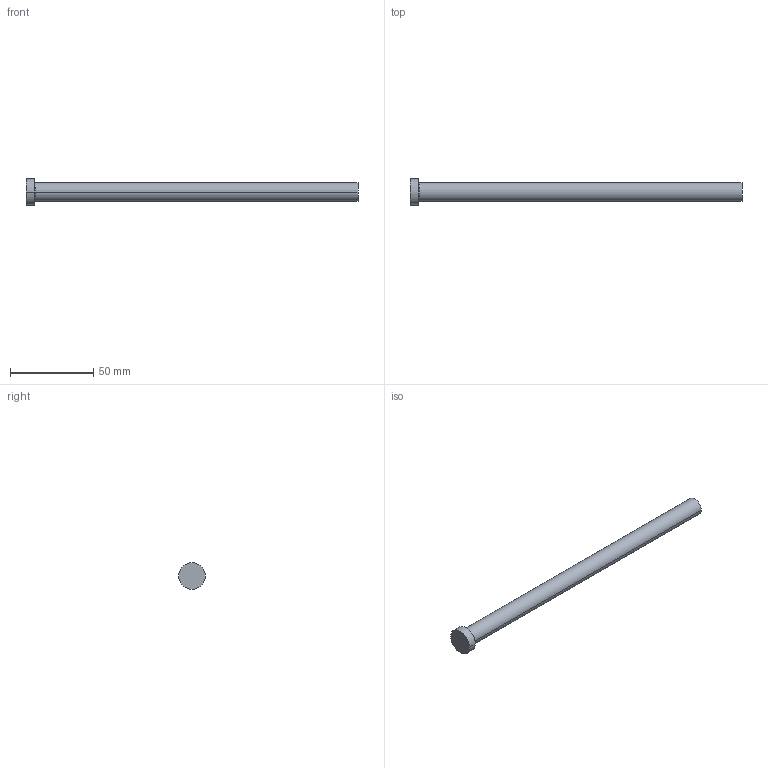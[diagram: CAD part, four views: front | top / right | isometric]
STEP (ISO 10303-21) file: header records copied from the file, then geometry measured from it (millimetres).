
FILE_DESCRIPTION (( 'STEP AP214' ), '1' );
FILE_NAME ('A-11x200.STEP', '2020-05-29T16:05:32', ( 'August' ), ( '' ), 'SwSTEP 2.0', 'SolidWorks 2018', '' );
FILE_SCHEMA (( 'AUTOMOTIVE_DESIGN' ));
Length unit declared in the file: millimetre
Products named in the file (1): A-11x200
Bounding box: 200 x 16 x 16 mm (x, y, z)
Volume: 19538.7 mm3; surface area: 7384.9 mm2
Topology: 1 solids, 1 shells, 9 faces, 16 edges, 10 vertices
Faces by surface type: cylinder 4, plane 3, torus 2
Entity records: 260 total; most frequent: DIRECTION 48, CARTESIAN_POINT 36, ORIENTED_EDGE 32, AXIS2_PLACEMENT_3D 22, EDGE_CURVE 16, CIRCLE 12, VERTEX_POINT 10, EDGE_LOOP 10
